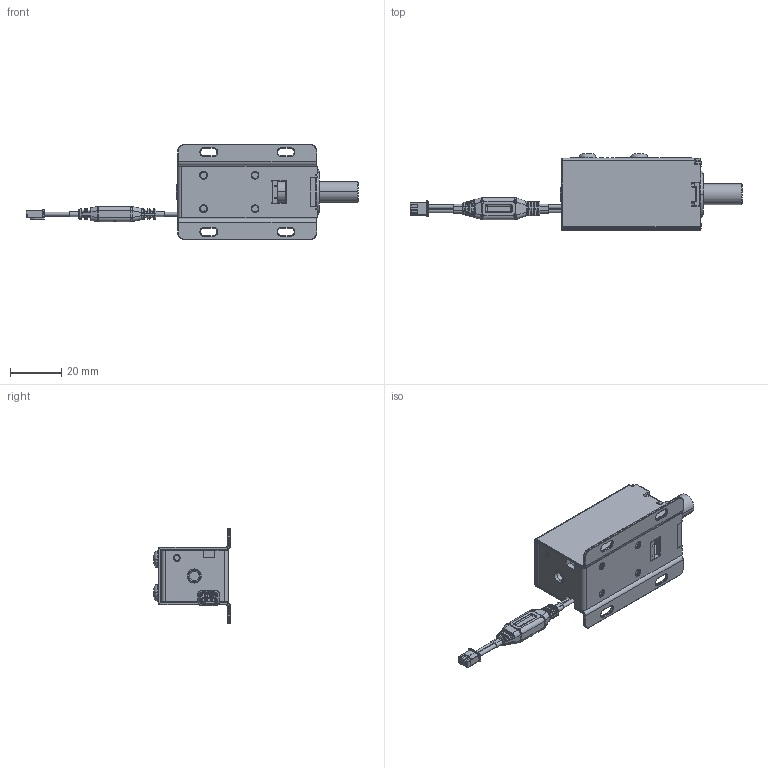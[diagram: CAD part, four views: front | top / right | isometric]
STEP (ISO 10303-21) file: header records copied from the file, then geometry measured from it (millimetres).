
FILE_DESCRIPTION((''),'2;1');
FILE_NAME('LY-01D0_ASM','2024-11-30T13:13:23',('PRIME'),(''),'CREO PARAMETRIC BY PTC INC, 2023073','CREO PARAMETRIC BY PTC INC, 2023073','');
FILE_SCHEMA(('CONFIG_CONTROL_DESIGN','SHAPE_APPEARANCE_LAYERS_GROUPS'));
Products named in the file (4): _LY-01D000; 0001; LY-01D0_ASM
Assembly tree (3 placements, depth 2):
  LY-01D0_ASM
    _LY-01D000
    _LY-01D000
    0001
Bounding box: 129 x 29.8 x 37 mm (x, y, z)
Volume: 14670.6 mm3; surface area: 20670.5 mm2
Topology: 56 solids, 56 shells, 2913 faces, 7541 edges, 4732 vertices
Faces by surface type: plane 936, extrusion 796, cylinder 561, bspline 359, torus 157, sphere 82, cone 14, revolution 8
Entity records: 134496 total; most frequent: CARTESIAN_POINT 45732, ORIENTED_EDGE 15044, DIRECTION 10918, EDGE_CURVE 7522, VERTEX_POINT 4732, VECTOR 4526, LINE 3730, PRESENTATION_STYLE_ASSIGNMENT 3715
